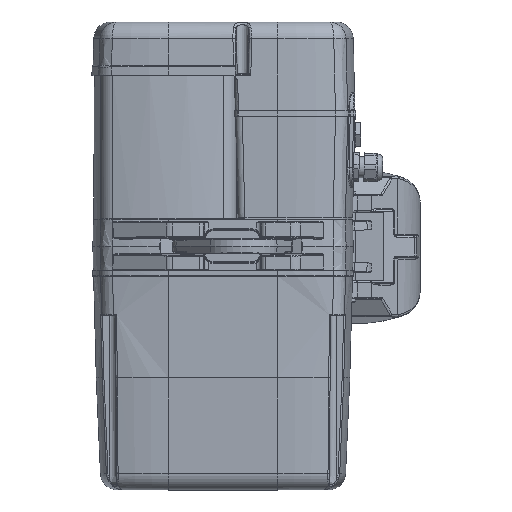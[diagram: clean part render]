
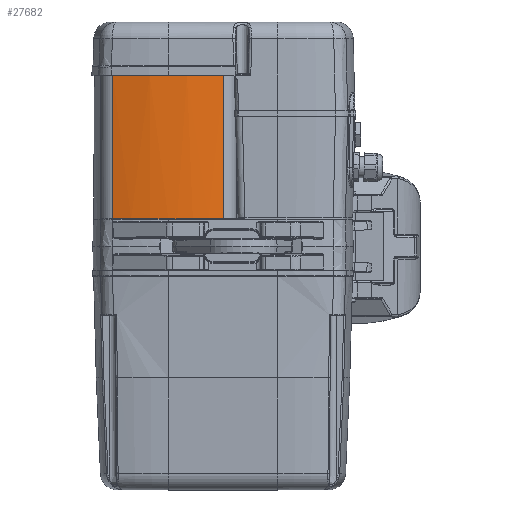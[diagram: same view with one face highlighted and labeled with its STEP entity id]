
A CAD part, top view. The second image highlights one B-rep face of the part: STEP entity #27682.
In plain terms, the highlighted cylindrical face has radius 262.421 mm (diameter 524.843 mm), a partial arc.
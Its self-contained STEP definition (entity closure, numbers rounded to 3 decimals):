
#1808=B_SPLINE_CURVE_WITH_KNOTS('',3,(#56214,#56215,#56216,#56217,#56218,
#56219,#56220,#56221,#56222,#56223),.UNSPECIFIED.,.F.,.F.,(4,2,2,2,4),(-0.955,
-0.915,-0.61,-0.305,0.),
 .UNSPECIFIED.);
#2997=LINE('',#56234,#4306);
#3002=LINE('',#56244,#4311);
#4306=VECTOR('',#35822,168.077);
#4311=VECTOR('',#35837,168.);
#6383=FACE_OUTER_BOUND('',#8109,.T.);
#8109=EDGE_LOOP('',(#21576,#21577,#21578,#21579,#21580,#21581));
#9207=CIRCLE('',#29345,262.421);
#9264=CIRCLE('',#29464,262.421);
#9601=CIRCLE('',#30160,262.421);
#10970=VERTEX_POINT('',#49491);
#10971=VERTEX_POINT('',#49492);
#11098=VERTEX_POINT('',#51254);
#11099=VERTEX_POINT('',#51255);
#11630=VERTEX_POINT('',#56208);
#11631=VERTEX_POINT('',#56209);
#13950=EDGE_CURVE('',#10970,#10971,#9207,.T.);
#14154=EDGE_CURVE('',#11098,#11099,#9264,.T.);
#15029=EDGE_CURVE('',#11630,#11631,#9601,.T.);
#15032=EDGE_CURVE('',#10971,#11630,#1808,.T.);
#15038=EDGE_CURVE('',#11631,#11098,#2997,.T.);
#15043=EDGE_CURVE('',#10970,#11099,#3002,.T.);
#21576=ORIENTED_EDGE('',*,*,#14154,.F.);
#21577=ORIENTED_EDGE('',*,*,#15038,.F.);
#21578=ORIENTED_EDGE('',*,*,#15029,.F.);
#21579=ORIENTED_EDGE('',*,*,#15032,.F.);
#21580=ORIENTED_EDGE('',*,*,#13950,.F.);
#21581=ORIENTED_EDGE('',*,*,#15043,.T.);
#24836=CYLINDRICAL_SURFACE('',#30172,262.421);
#27682=ADVANCED_FACE('',(#6383),#24836,.T.);
#29345=AXIS2_PLACEMENT_3D('',#49493,#33774,#33775);
#29464=AXIS2_PLACEMENT_3D('',#51256,#34084,#34085);
#30160=AXIS2_PLACEMENT_3D('',#56210,#35800,#35801);
#30172=AXIS2_PLACEMENT_3D('',#56243,#35835,#35836);
#33774=DIRECTION('center_axis',(0.,-1.,0.));
#33775=DIRECTION('ref_axis',(0.167,0.,-0.986));
#34084=DIRECTION('center_axis',(0.,1.,0.));
#34085=DIRECTION('ref_axis',(0.167,0.,-0.986));
#35800=DIRECTION('center_axis',(0.,-1.,0.));
#35801=DIRECTION('ref_axis',(0.167,0.,-0.986));
#35822=DIRECTION('',(0.,1.,0.));
#35835=DIRECTION('center_axis',(0.,1.,0.));
#35836=DIRECTION('ref_axis',(0.167,0.,-0.986));
#35837=DIRECTION('',(0.,1.,0.));
#49491=CARTESIAN_POINT('',(-19.855,32.,-78.729));
#49492=CARTESIAN_POINT('',(-74.491,32.,-70.779));
#49493=CARTESIAN_POINT('Origin',(-84.75,32.,-333.));
#51254=CARTESIAN_POINT('',(-149.645,200.,-78.729));
#51255=CARTESIAN_POINT('',(-19.855,200.,-78.729));
#51256=CARTESIAN_POINT('Origin',(-84.75,200.,-333.));
#56208=CARTESIAN_POINT('',(-84.75,31.923,-70.579));
#56209=CARTESIAN_POINT('',(-149.645,31.923,-78.729));
#56210=CARTESIAN_POINT('Origin',(-84.75,31.923,-333.));
#56214=CARTESIAN_POINT('Ctrl Pts',(-74.491,32.,-70.779));
#56215=CARTESIAN_POINT('Ctrl Pts',(-74.632,32.,-70.774));
#56216=CARTESIAN_POINT('Ctrl Pts',(-74.773,32.,-70.768));
#56217=CARTESIAN_POINT('Ctrl Pts',(-76.006,31.997,-70.722));
#56218=CARTESIAN_POINT('Ctrl Pts',(-77.124,31.987,-70.687));
#56219=CARTESIAN_POINT('Ctrl Pts',(-79.36,31.963,-70.632));
#56220=CARTESIAN_POINT('Ctrl Pts',(-80.479,31.949,-70.611));
#56221=CARTESIAN_POINT('Ctrl Pts',(-82.665,31.929,-70.585));
#56222=CARTESIAN_POINT('Ctrl Pts',(-83.733,31.923,-70.579));
#56223=CARTESIAN_POINT('Ctrl Pts',(-84.75,31.923,-70.579));
#56234=CARTESIAN_POINT('',(-149.645,32.5,-78.729));
#56243=CARTESIAN_POINT('Origin',(-84.75,32.5,-333.));
#56244=CARTESIAN_POINT('',(-19.855,32.5,-78.729));
